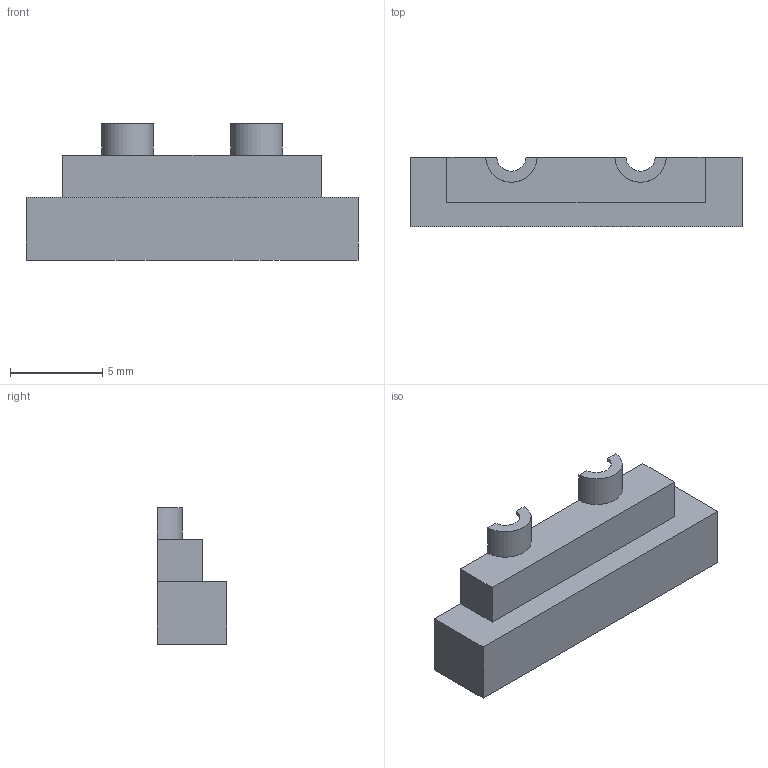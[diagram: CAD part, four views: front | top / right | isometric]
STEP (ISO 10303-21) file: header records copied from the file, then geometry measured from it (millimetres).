
FILE_DESCRIPTION(('Open CASCADE Model'),'2;1');
FILE_NAME('Open CASCADE Shape Model','2026-10-19T15:20:36',('Author'),( 'Open CASCADE'),'Open CASCADE STEP processor 7.9','Open CASCADE 7.9' ,'Unknown');
FILE_SCHEMA(('AUTOMOTIVE_DESIGN { 1 0 10303 214 1 1 1 1 }'));
Length unit declared in the file: millimetre
Products named in the file (1): Open CASCADE STEP translator 7.9 2
Bounding box: 18 x 3.75 x 7.39 mm (x, y, z)
Volume: 278.8 mm3; surface area: 402.6 mm2
Topology: 1 solids, 1 shells, 30 faces, 84 edges, 56 vertices
Faces by surface type: plane 20, cylinder 10
Entity records: 1998 total; most frequent: CARTESIAN_POINT 483, DIRECTION 230, ORIENTED_EDGE 168, PCURVE 168, DEFINITIONAL_REPRESENTATION 168, LINE 116, VECTOR 116, B_SPLINE_CURVE_WITH_KNOTS 96
